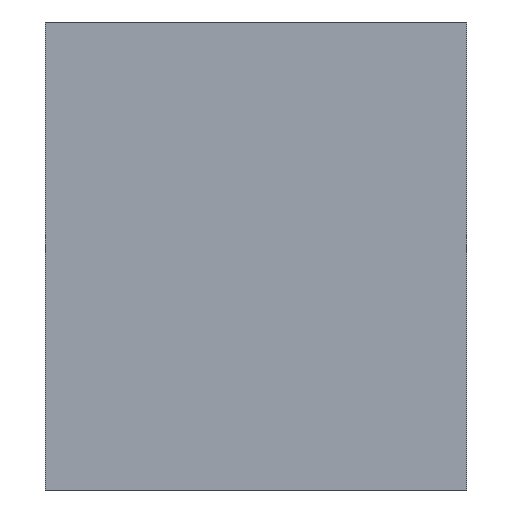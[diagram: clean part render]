
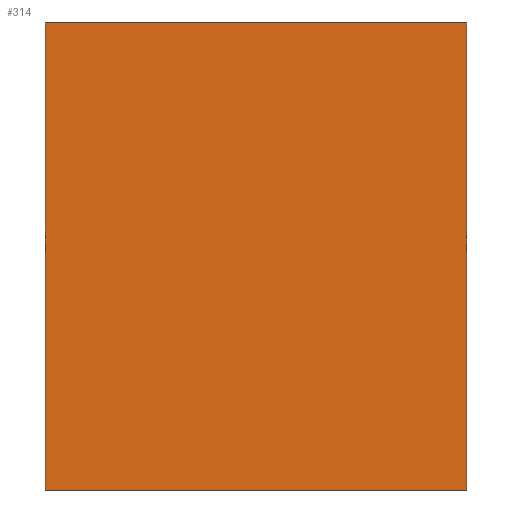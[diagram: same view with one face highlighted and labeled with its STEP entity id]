
A CAD part, left-side view. The second image highlights one B-rep face of the part: STEP entity #314.
In plain terms, the highlighted planar face has unit normal (-1, 0, 0).
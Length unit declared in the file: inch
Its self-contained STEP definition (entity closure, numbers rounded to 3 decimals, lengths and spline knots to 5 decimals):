
#8 = FACE_OUTER_BOUND ( 'NONE', #135, .T. ) ;
#38 = ORIENTED_EDGE ( 'NONE', *, *, #221, .T. ) ;
#86 = ORIENTED_EDGE ( 'NONE', *, *, #252, .T. ) ;
#97 = ORIENTED_EDGE ( 'NONE', *, *, #245, .F. ) ;
#104 = ORIENTED_EDGE ( 'NONE', *, *, #261, .F. ) ;
#111 = LINE ( 'NONE', #340, #112 ) ;
#112 = VECTOR ( 'NONE', #359, 39.37008 ) ;
#135 = EDGE_LOOP ( 'NONE', ( #38, #104, #97, #86 ) ) ;
#162 = LINE ( 'NONE', #438, #173 ) ;
#164 = VECTOR ( 'NONE', #396, 39.37008 ) ;
#166 = LINE ( 'NONE', #426, #171 ) ;
#171 = VECTOR ( 'NONE', #416, 39.37008 ) ;
#173 = VECTOR ( 'NONE', #462, 39.37008 ) ;
#201 = LINE ( 'NONE', #392, #164 ) ;
#221 = EDGE_CURVE ( 'NONE', #381, #334, #111, .T. ) ;
#245 = EDGE_CURVE ( 'NONE', #384, #332, #201, .T. ) ;
#252 = EDGE_CURVE ( 'NONE', #384, #381, #166, .T. ) ;
#261 = EDGE_CURVE ( 'NONE', #332, #334, #162, .T. ) ;
#285 = AXIS2_PLACEMENT_3D ( 'NONE', #488, #500, #499 ) ;
#314 = ADVANCED_FACE ( 'NONE', ( #8 ), #486, .F. ) ;
#332 = VERTEX_POINT ( 'NONE', #531 ) ;
#334 = VERTEX_POINT ( 'NONE', #533 ) ;
#340 = CARTESIAN_POINT ( 'NONE',  ( 0., 0., 0. ) ) ;
#359 = DIRECTION ( 'NONE',  ( 0., -1., 0. ) ) ;
#381 = VERTEX_POINT ( 'NONE', #503 ) ;
#384 = VERTEX_POINT ( 'NONE', #548 ) ;
#392 = CARTESIAN_POINT ( 'NONE',  ( 0., 0., 1.25 ) ) ;
#396 = DIRECTION ( 'NONE',  ( 0., -1., 0. ) ) ;
#416 = DIRECTION ( 'NONE',  ( 0., 0., -1. ) ) ;
#426 = CARTESIAN_POINT ( 'NONE',  ( 0., 1.125, 1.25 ) ) ;
#438 = CARTESIAN_POINT ( 'NONE',  ( 0., 0., 1.25 ) ) ;
#462 = DIRECTION ( 'NONE',  ( 0., 0., -1. ) ) ;
#486 = PLANE ( 'NONE',  #285 ) ;
#488 = CARTESIAN_POINT ( 'NONE',  ( 0., 0., 1.25 ) ) ;
#499 = DIRECTION ( 'NONE',  ( 0., 0., -1. ) ) ;
#500 = DIRECTION ( 'NONE',  ( 1., 0., 0. ) ) ;
#503 = CARTESIAN_POINT ( 'NONE',  ( 0., 1.125, 0. ) ) ;
#531 = CARTESIAN_POINT ( 'NONE',  ( 0., 0., 1.25 ) ) ;
#533 = CARTESIAN_POINT ( 'NONE',  ( 0., 0., 0. ) ) ;
#548 = CARTESIAN_POINT ( 'NONE',  ( 0., 1.125, 1.25 ) ) ;
